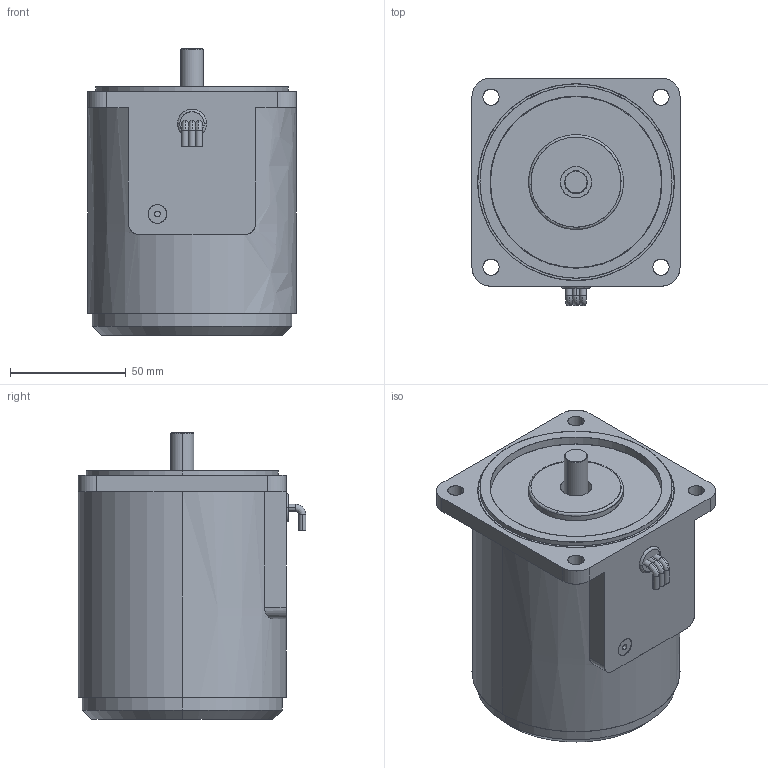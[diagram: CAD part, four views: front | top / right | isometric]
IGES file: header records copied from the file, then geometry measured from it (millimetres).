
Start section: SolidWorks IGES file using analytic representation for surfaces
Bounding box: 90 x 98.5 x 124 mm (x, y, z)
Surface area: 90469.9 mm2 (no closed solid volume)
Topology: 0 solids, 0 shells, 107 faces, 2512 edges, 2512 vertices
Faces by surface type: revolution 60, bspline 47
